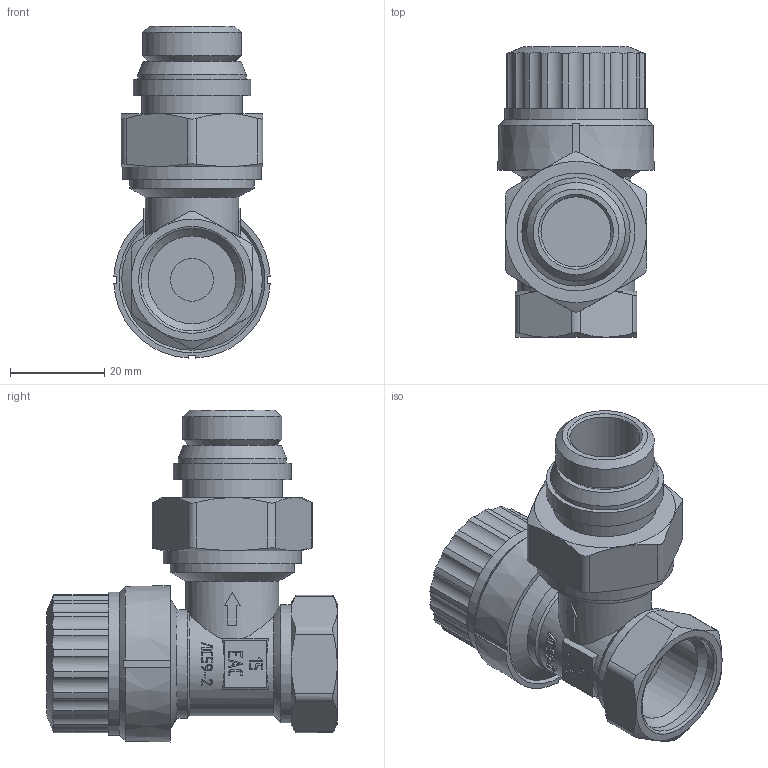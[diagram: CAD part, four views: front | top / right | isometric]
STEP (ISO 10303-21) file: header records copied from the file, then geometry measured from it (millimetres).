
FILE_DESCRIPTION(('STEP AP203'), '1');
FILE_NAME('VT.037.NRC.04', '2026-02-16T06:04:01', ('VerevichevVA'), ('Vesta'), 'C3D Converter', 'C3D Toolkit', '');
FILE_SCHEMA(('CONFIG_CONTROL_DESIGN'));
Length unit declared in the file: millimetre
Bounding box: 33.19 x 61.7 x 70.5 mm (x, y, z)
Volume: 48955.6 mm3; surface area: 14028.5 mm2
Topology: 1 solids, 3 shells, 516 faces, 1388 edges, 915 vertices
Faces by surface type: plane 220, extrusion 165, cylinder 98, cone 32, torus 1
Full cylindrical faces by diameter (mm): 9.1 x1, 14.9 x1, 18.632 x1, 19.8 x1, 20.955 x1, 21.3 x1, 21.7 x1, 21.9 x1, 22.1 x1, 23 x2, 25 x2, 26.441 x1, 29.4 x1, 30.4 x1
Entity records: 23461 total; most frequent: CARTESIAN_POINT 11407, ORIENTED_EDGE 2714, DIRECTION 1962, EDGE_CURVE 1357, VERTEX_POINT 915, VECTOR 810, LINE 645, B_SPLINE_CURVE_WITH_KNOTS 612
